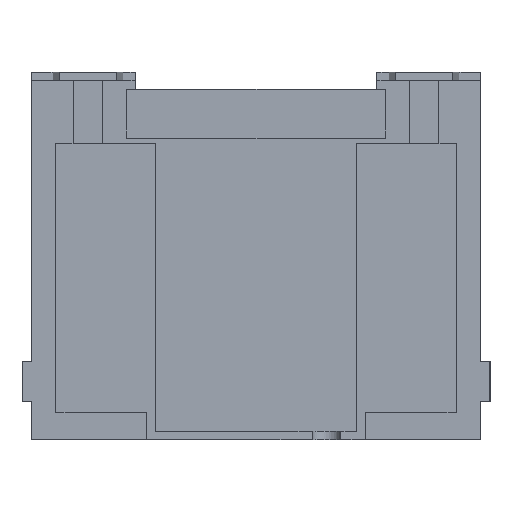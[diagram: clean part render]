
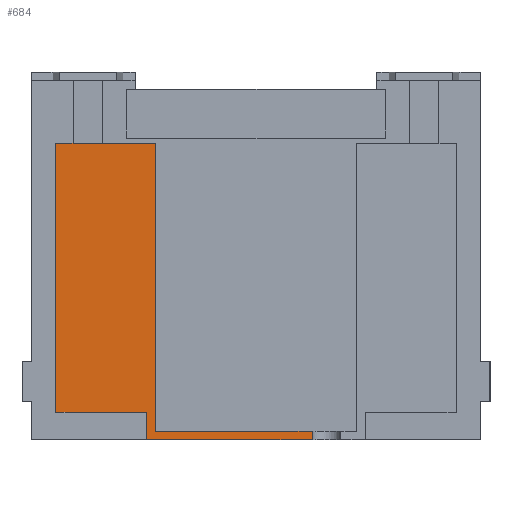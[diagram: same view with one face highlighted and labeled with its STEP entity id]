
A CAD part, front view. The second image highlights one B-rep face of the part: STEP entity #684.
In plain terms, the highlighted planar face has unit normal (0, -1, 0).
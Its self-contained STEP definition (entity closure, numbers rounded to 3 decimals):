
#165 = ORIENTED_EDGE ( 'NONE', *, *, #2079, .F. ) ;
#167 = ORIENTED_EDGE ( 'NONE', *, *, #2159, .F. ) ;
#168 = ORIENTED_EDGE ( 'NONE', *, *, #2073, .F. ) ;
#169 = ORIENTED_EDGE ( 'NONE', *, *, #2412, .F. ) ;
#170 = ORIENTED_EDGE ( 'NONE', *, *, #2373, .F. ) ;
#171 = ORIENTED_EDGE ( 'NONE', *, *, #2401, .F. ) ;
#370 = CARTESIAN_POINT ( 'NONE',  ( -47.05, -5.25, 4.8 ) ) ;
#373 = DIRECTION ( 'NONE',  ( -1., 0., 0. ) ) ;
#374 = CARTESIAN_POINT ( 'NONE',  ( -31.25, -5.25, 4.8 ) ) ;
#385 = DIRECTION ( 'NONE',  ( 0., 0., 1. ) ) ;
#684 = ADVANCED_FACE ( 'NONE', ( #915 ), #1680, .F. ) ;
#788 = ORIENTED_EDGE ( 'NONE', *, *, #2208, .T. ) ;
#858 = EDGE_LOOP ( 'NONE', ( #165, #167, #168, #170, #169, #171, #1586, #788 ) ) ;
#915 = FACE_OUTER_BOUND ( 'NONE', #858, .T. ) ;
#988 = LINE ( 'NONE', #2050, #989 ) ;
#989 = VECTOR ( 'NONE', #2024, 1000. ) ;
#994 = LINE ( 'NONE', #2022, #995 ) ;
#995 = VECTOR ( 'NONE', #2061, 1000. ) ;
#1013 = LINE ( 'NONE', #2092, #1026 ) ;
#1026 = VECTOR ( 'NONE', #2106, 1000. ) ;
#1111 = LINE ( 'NONE', #2260, #1119 ) ;
#1119 = VECTOR ( 'NONE', #2299, 1000. ) ;
#1134 = LINE ( 'NONE', #2279, #1143 ) ;
#1143 = VECTOR ( 'NONE', #2267, 1000. ) ;
#1175 = LINE ( 'NONE', #2351, #1176 ) ;
#1176 = VECTOR ( 'NONE', #2348, 1000. ) ;
#1216 = LINE ( 'NONE', #370, #1247 ) ;
#1227 = LINE ( 'NONE', #374, #1228 ) ;
#1228 = VECTOR ( 'NONE', #373, 1000. ) ;
#1247 = VECTOR ( 'NONE', #385, 1000. ) ;
#1570 = CARTESIAN_POINT ( 'NONE',  ( -2.5, -5.25, 0. ) ) ;
#1586 = ORIENTED_EDGE ( 'NONE', *, *, #2328, .F. ) ;
#1680 = PLANE ( 'NONE',  #1923 ) ;
#1700 = CARTESIAN_POINT ( 'NONE',  ( -51.35, -5.25, 51.6 ) ) ;
#1708 = VERTEX_POINT ( 'NONE', #1570 ) ;
#1768 = VERTEX_POINT ( 'NONE', #2120 ) ;
#1797 = DIRECTION ( 'NONE',  ( 0., 1., 0. ) ) ;
#1802 = VERTEX_POINT ( 'NONE', #2069 ) ;
#1804 = DIRECTION ( 'NONE',  ( -1., 0., 0. ) ) ;
#1844 = VERTEX_POINT ( 'NONE', #1988 ) ;
#1849 = VERTEX_POINT ( 'NONE', #1992 ) ;
#1866 = VERTEX_POINT ( 'NONE', #2123 ) ;
#1902 = VERTEX_POINT ( 'NONE', #2007 ) ;
#1903 = VERTEX_POINT ( 'NONE', #2008 ) ;
#1923 = AXIS2_PLACEMENT_3D ( 'NONE', #1700, #1797, #1804 ) ;
#1988 = CARTESIAN_POINT ( 'NONE',  ( -31.25, -5.25, 4.8 ) ) ;
#1992 = CARTESIAN_POINT ( 'NONE',  ( -47.05, -5.25, 4.8 ) ) ;
#2007 = CARTESIAN_POINT ( 'NONE',  ( -2.5, -5.25, 1.5 ) ) ;
#2008 = CARTESIAN_POINT ( 'NONE',  ( -29.75, -5.25, 51.6 ) ) ;
#2022 = CARTESIAN_POINT ( 'NONE',  ( -2.5, -5.25, 1.5 ) ) ;
#2024 = DIRECTION ( 'NONE',  ( 0., 0., -1. ) ) ;
#2050 = CARTESIAN_POINT ( 'NONE',  ( -29.75, -5.25, 1.5 ) ) ;
#2061 = DIRECTION ( 'NONE',  ( 0., 0., -1. ) ) ;
#2069 = CARTESIAN_POINT ( 'NONE',  ( -31.25, -5.25, 0. ) ) ;
#2073 = EDGE_CURVE ( 'NONE', #1903, #1768, #988, .T. ) ;
#2079 = EDGE_CURVE ( 'NONE', #1902, #1708, #994, .T. ) ;
#2092 = CARTESIAN_POINT ( 'NONE',  ( -29.75, -5.25, 1.5 ) ) ;
#2106 = DIRECTION ( 'NONE',  ( 1., 0., 0. ) ) ;
#2120 = CARTESIAN_POINT ( 'NONE',  ( -29.75, -5.25, 1.5 ) ) ;
#2123 = CARTESIAN_POINT ( 'NONE',  ( -47.05, -5.25, 51.6 ) ) ;
#2159 = EDGE_CURVE ( 'NONE', #1768, #1902, #1013, .T. ) ;
#2208 = EDGE_CURVE ( 'NONE', #1802, #1708, #1111, .T. ) ;
#2260 = CARTESIAN_POINT ( 'NONE',  ( -51.35, -5.25, 0. ) ) ;
#2267 = DIRECTION ( 'NONE',  ( 0., 0., 1. ) ) ;
#2279 = CARTESIAN_POINT ( 'NONE',  ( -31.25, -5.25, 0. ) ) ;
#2299 = DIRECTION ( 'NONE',  ( 1., 0., 0. ) ) ;
#2328 = EDGE_CURVE ( 'NONE', #1802, #1844, #1134, .T. ) ;
#2348 = DIRECTION ( 'NONE',  ( 1., 0., 0. ) ) ;
#2351 = CARTESIAN_POINT ( 'NONE',  ( -51.35, -5.25, 51.6 ) ) ;
#2373 = EDGE_CURVE ( 'NONE', #1866, #1903, #1175, .T. ) ;
#2401 = EDGE_CURVE ( 'NONE', #1844, #1849, #1227, .T. ) ;
#2412 = EDGE_CURVE ( 'NONE', #1849, #1866, #1216, .T. ) ;
